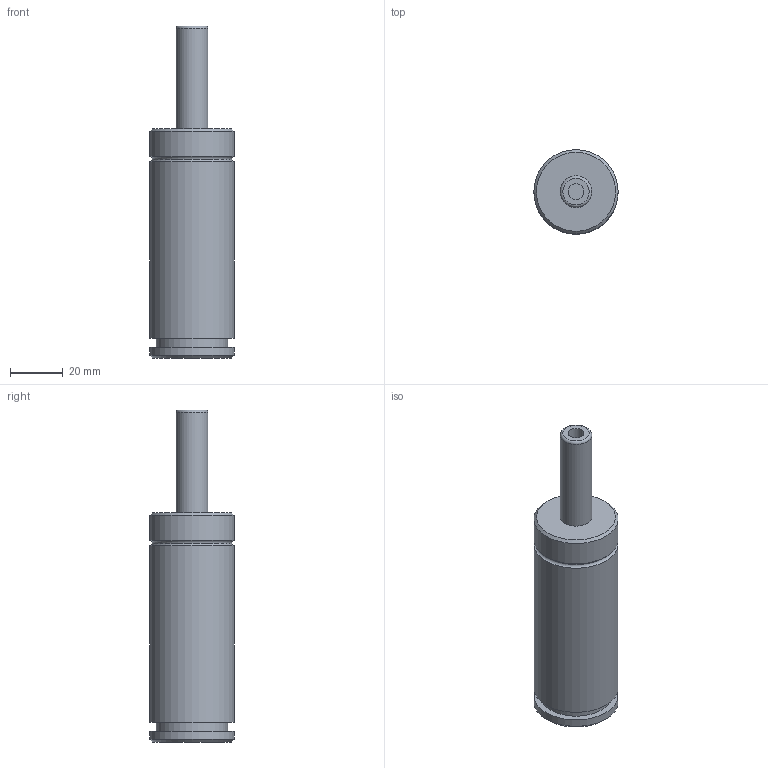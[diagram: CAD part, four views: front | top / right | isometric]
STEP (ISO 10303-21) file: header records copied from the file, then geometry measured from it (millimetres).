
FILE_DESCRIPTION(('FreeCAD Model'),'2;1');
FILE_NAME('Open CASCADE Shape Model','2024-11-14T10:04:17',('Author'),( ''),'Open CASCADE STEP processor 7.6','FreeCAD','Unknown');
FILE_SCHEMA(('AUTOMOTIVE_DESIGN { 1 0 10303 214 1 1 1 1 }'));
Length unit declared in the file: millimetre
Products named in the file (5): Unnamed; Part003; Cut; Part009; Cut003
Assembly tree (4 placements, depth 3):
  Unnamed
    Part003
      Cut
    Part009
      Cut003
Bounding box: 32 x 32 x 126 mm (x, y, z)
Volume: 72249.2 mm3; surface area: 13131.6 mm2
Topology: 2 solids, 2 shells, 24 faces, 36 edges, 22 vertices
Faces by surface type: plane 10, cylinder 9, torus 3, cone 2
Full cylindrical faces by diameter (mm): 6 x4, 12 x1, 27 x1, 32 x3
Entity records: 639 total; most frequent: DIRECTION 119, CARTESIAN_POINT 87, ORIENTED_EDGE 72, AXIS2_PLACEMENT_3D 54, EDGE_CURVE 36, FACE_BOUND 30, EDGE_LOOP 30, CIRCLE 25
